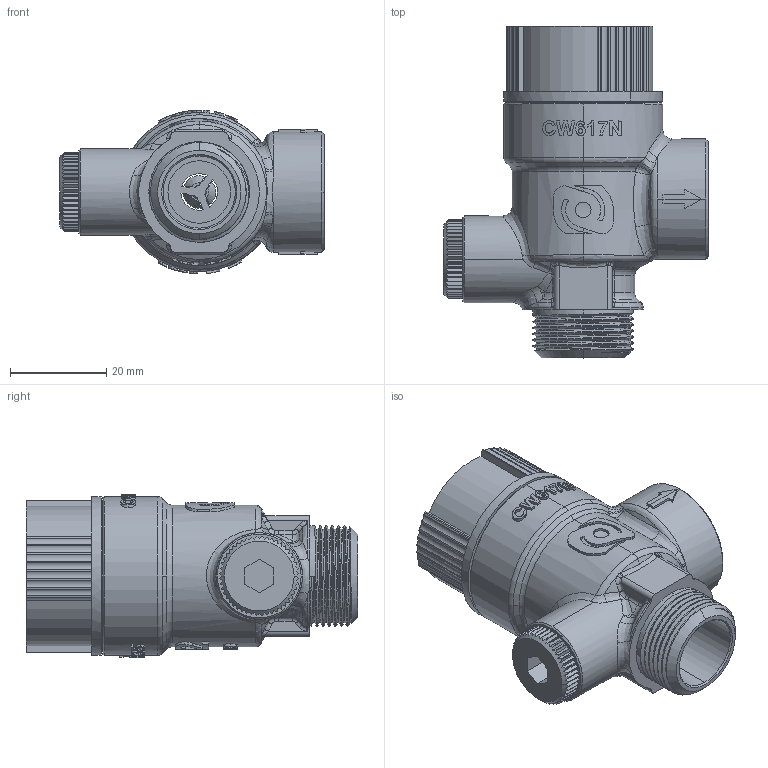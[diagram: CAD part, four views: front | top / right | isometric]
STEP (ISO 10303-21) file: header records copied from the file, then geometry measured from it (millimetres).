
FILE_DESCRIPTION (( 'STEP AP214' ), '1' );
FILE_NAME ('42510.STEP', '2022-09-12T10:32:12', ( '' ), ( '' ), 'SwSTEP 2.0', 'SolidWorks 2022', '' );
FILE_SCHEMA (( 'AUTOMOTIVE_DESIGN' ));
Length unit declared in the file: millimetre
Products named in the file (6): 52205016_1; 30914805_1; 60005001_1; 42510; 90005039_1; 30005615_1
Assembly tree (5 placements, depth 4):
  42510
    90005039_1
      60005001_1
        30005615_1
        52205016_1
      30914805_1
Bounding box: 55 x 68.95 x 34 mm (x, y, z)
Volume: 22137.1 mm3; surface area: 19745.7 mm2
Topology: 4 solids, 4 shells, 938 faces, 2514 edges, 1624 vertices
Faces by surface type: plane 316, cylinder 296, bspline 221, cone 61, torus 39, sphere 5
Entity records: 54321 total; most frequent: CARTESIAN_POINT 22398, ORIENTED_EDGE 5024, DIRECTION 3758, EDGE_CURVE 2512, VERTEX_POINT 1624, AXIS2_PLACEMENT_3D 1381, EDGE_LOOP 1000, VECTOR 996
